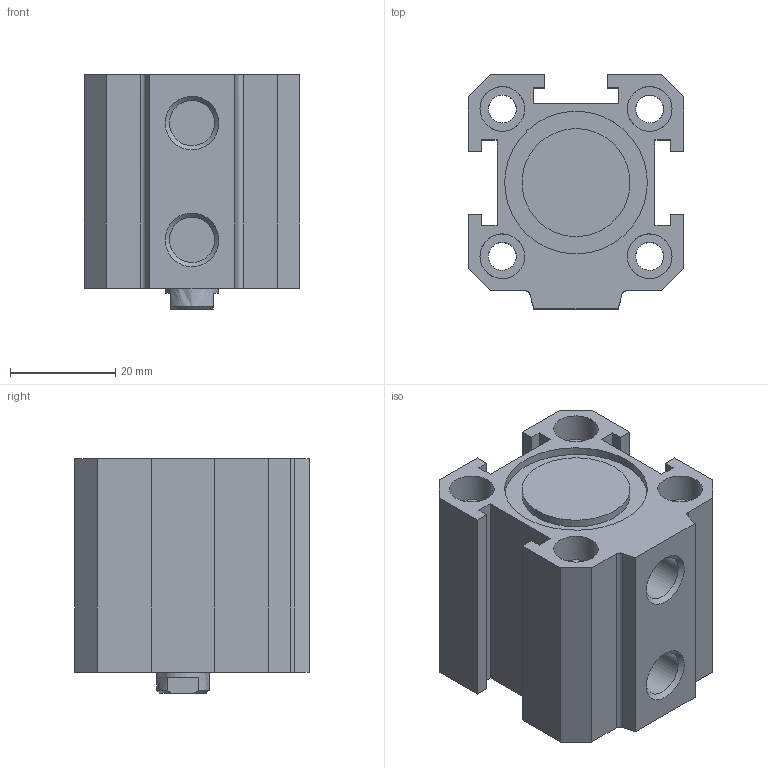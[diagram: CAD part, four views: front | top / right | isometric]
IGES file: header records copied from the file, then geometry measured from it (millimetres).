
Global section: file name: 1512_25_0010; native system: Autodesk Inventor 2014; preprocessor: unknown; author: A. Manieri; date: 20160907.110152; units: millimetre
Bounding box: 41 x 44.5 x 44.5 mm (x, y, z)
Volume: 48546.7 mm3; surface area: 21396.8 mm2
Topology: 2 solids, 2 shells, 92 faces, 236 edges, 166 vertices
Faces by surface type: bspline 92
